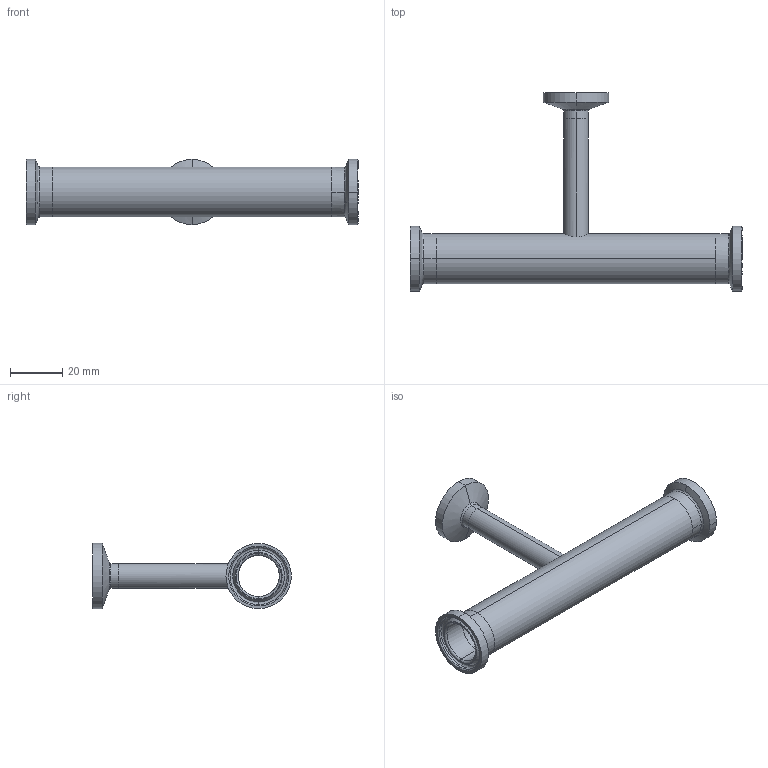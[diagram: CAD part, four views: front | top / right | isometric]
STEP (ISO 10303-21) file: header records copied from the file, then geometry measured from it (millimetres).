
FILE_DESCRIPTION (( 'STEP AP214' ), '1' );
FILE_NAME ('TEG7R6L.75x.375-...STEP', '2016-05-24T04:58:33', ( 'eran' ), ( '' ), 'SwSTEP 2.0', 'SolidWorks 2016', '' );
FILE_SCHEMA (( 'AUTOMOTIVE_DESIGN' ));
Length unit declared in the file: millimetre
Products named in the file (1): TEG7R6L.75x.375-..
Bounding box: 127 x 76 x 24.99 mm (x, y, z)
Volume: 15495.3 mm3; surface area: 19485.8 mm2
Topology: 4 solids, 4 shells, 80 faces, 178 edges, 110 vertices
Faces by surface type: cylinder 32, bspline 24, plane 12, cone 12
Entity records: 2725 total; most frequent: CARTESIAN_POINT 901, DIRECTION 394, ORIENTED_EDGE 356, EDGE_CURVE 178, AXIS2_PLACEMENT_3D 175, CIRCLE 118, VERTEX_POINT 110, EDGE_LOOP 94
